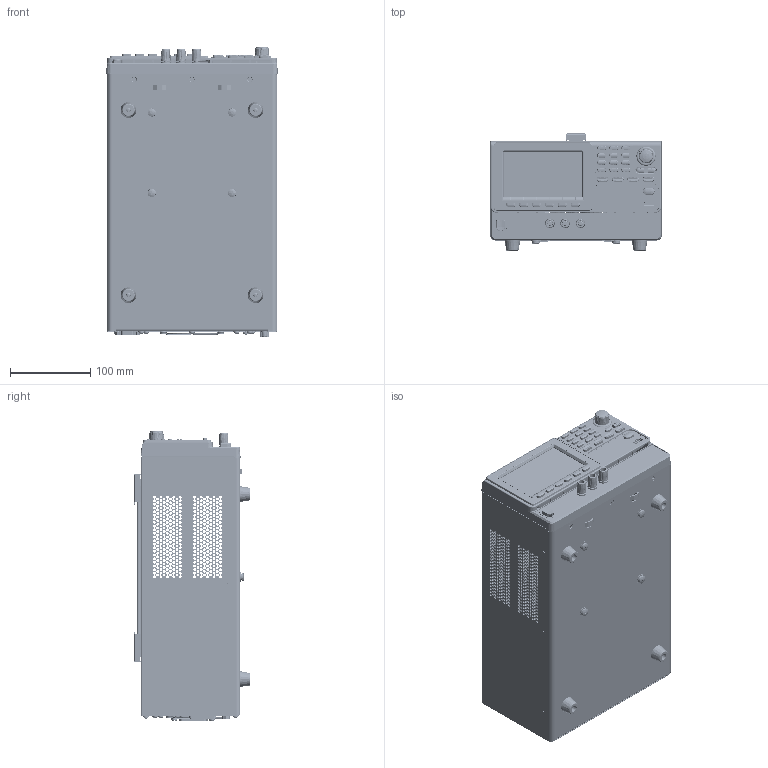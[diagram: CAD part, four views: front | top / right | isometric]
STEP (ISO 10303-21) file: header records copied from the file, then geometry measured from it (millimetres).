
FILE_DESCRIPTION((''),'2;1');
FILE_NAME('GPP-6030_ASM_ASM_ASM','2024-11-13T10:51:50',('user'),(''),'CREO PARAMETRIC BY PTC INC, 2019010','CREO PARAMETRIC BY PTC INC, 2019010','');
FILE_SCHEMA(('CONFIG_CONTROL_DESIGN'));
Products named in the file (88): GPP-6030_FRONT_ASM_SKEL_165_1_1; 63FP-AG114401_478_1_1; GPP-6030_FRONT_FRAME-B_ASM_12_A_ASM; 57RB-40G13601_85_1_1; 57RB-40G14001_15_1_1; USB-V_10_1_1_1; ENCODE_SW-R126EC-D1-25_5_1_1; GPP-6030_LCD_ASM_33_ASM_1_1; LED16X125S_2_1_1; GPP-6030_KEYBOARD-PCB_ASM_145_A_ASM; 5005-180G02A1_17_1_1; 51PP-3610H101_1_1_1; 51PP-3610H301_1_1_1; 51PP-13260201_5_1_1; 63LK-AG101301_73_1_1; 4702-05000301_10_1_1; 51GP-43230401_5_1_1; GPP-6030_FRONT_ASM-B_ASM_256_AS_ASM; BODY_R_2_1_1; SHIFT_13_1_1; KNOB_11_1_1; INSERT_5_1_1; KNOB_ASM_7_ASM_1_ASM_1_ASM; 44BJ-21102201_ASM_6_ASM_1_ASM_1_ASM; BODY_B_2_1_1; 44BJ-01102301_ASM_2_ASM_1_ASM_1_ASM; BODY_11_1_1; 44BJ-51101001_ASM_14_ASM_1_ASM__ASM; GPP-6030_OUTPUT-PCB_ASM_83_ASM__ASM; GPP-6030_FRONT_ASM_ASM_509_ASM__ASM; BOX-HEADER_3012_3_1_1; USB_6_1_1; RS232_MALE_4_1_1_1; RS232_MALE_4_2_1_1; RS232_MALE_4_3_1_1; RS232_MALE_4_ASM_1_ASM_1_ASM; GPP-6030_MAIN-PCB_ASM_318_ASM_1_ASM; 62PP-603LO101_1_1; GPP-6030_LO_TUDIAN_4_1_1; BSO-M3-10_7_1_1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
Assembly tree (159 placements, depth 8):
  GPP-6030_ASM_ASM_ASM
    GPP-6030_ASM_ASM_1_ASM
      GPP-6030_ASM_ASM_792_ASM_1_ASM__ASM
        GPP-6030_FRONT_ASM_ASM_509_ASM__ASM
          GPP-6030_FRONT_ASM_SKEL_165_1_1
          GPP-6030_FRONT_ASM-B_ASM_256_AS_ASM
            GPP-6030_FRONT_FRAME-B_ASM_12_A_ASM
              63FP-AG114401_478_1_1
            57RB-40G13601_85_1_1
            57RB-40G14001_15_1_1
            GPP-6030_KEYBOARD-PCB_ASM_145_A_ASM
              USB-V_10_1_1_1
              ENCODE_SW-R126EC-D1-25_5_1_1
              GPP-6030_LCD_ASM_33_ASM_1_1
              LED16X125S_2_1_1  x4
            5005-180G02A1_17_1_1
            51PP-3610H101_1_1_1
            51PP-3610H301_1_1_1
            51PP-13260201_5_1_1
            63LK-AG101301_73_1_1
            4702-05000301_10_1_1  x2
            51GP-43230401_5_1_1
          GPP-6030_OUTPUT-PCB_ASM_83_ASM__ASM
            44BJ-21102201_ASM_6_ASM_1_ASM_1_ASM
              BODY_R_2_1_1
              SHIFT_13_1_1
              KNOB_ASM_7_ASM_1_ASM_1_ASM
                KNOB_11_1_1
                INSERT_5_1_1
            44BJ-01102301_ASM_2_ASM_1_ASM_1_ASM
              BODY_B_2_1_1
              SHIFT_13_1_1
              KNOB_ASM_7_ASM_1_ASM_1_ASM
                KNOB_11_1_1
                INSERT_5_1_1
            44BJ-51101001_ASM_14_ASM_1_ASM__ASM
              BODY_11_1_1
              SHIFT_13_1_1
              KNOB_ASM_7_ASM_1_ASM_1_ASM
                KNOB_11_1_1
                INSERT_5_1_1
        GPP-6030_LO_ASM_ASM_250_ASM_1_A_ASM
          GPP-6030_MAIN-PCB_ASM_318_ASM_1_ASM
            BOX-HEADER_3012_3_1_1
            USB_6_1_1
            RS232_MALE_4_ASM_1_ASM_1_ASM
              RS232_MALE_4_1_1_1
              RS232_MALE_4_2_1_1
              RS232_MALE_4_3_1_1
          62PP-603LO101_ASM_271_ASM_1_ASM_ASM
            62PP-603LO101_1_1
            GPP-6030_LO_TUDIAN_4_1_1  x4
            BSO-M3-10_7_1_1  x16
            FH-M4-10_6_1_1
          57FC-10B0100_GL-4L-B_2_1_1  x4
          GPP-6030_POWER-PCB_ASM_69_ASM_1
          FMS-3X6_3_1_1  x5
          BMS-W-5X10_4_1_1  x4
          BMS-W-S-3X12_2_1_1  x4
        GPP-6030_UP_ASM_ASM_89_ASM_1_AS_ASM
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Bounding box: 213 x 145.34 x 361.2 mm (x, y, z)
Volume: 521704.7 mm3; surface area: 803131.2 mm2
Topology: 133 solids, 133 shells, 11084 faces, 29824 edges, 19398 vertices
Faces by surface type: plane 5149, cylinder 3587, cone 1531, bspline 416, torus 290, sphere 93, extrusion 18
Entity records: 321302 total; most frequent: CARTESIAN_POINT 80890, DIRECTION 50099, ORIENTED_EDGE 49656, EDGE_CURVE 24828, AXIS2_PLACEMENT_3D 18234, VERTEX_POINT 16175, VECTOR 13631, LINE 13625
